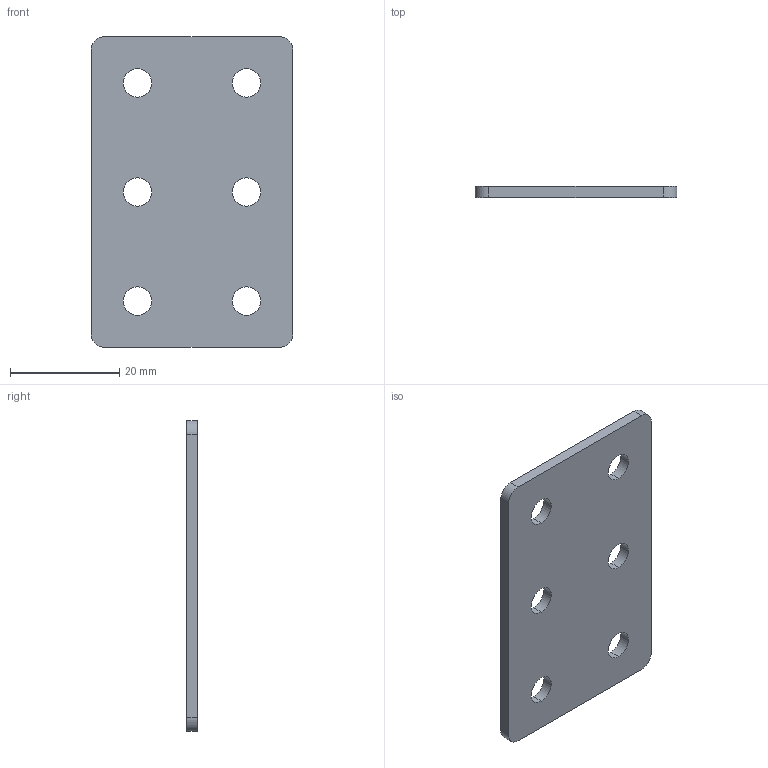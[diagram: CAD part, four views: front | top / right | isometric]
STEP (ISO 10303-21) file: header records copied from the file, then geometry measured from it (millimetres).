
FILE_DESCRIPTION (( 'STEP AP203' ), '1' );
FILE_NAME ('ﾏ-6-20.STEP', '2016-07-23T15:07:42', ( '' ), ( '' ), 'SwSTEP 2.0', 'SolidWorks 2014', '' );
FILE_SCHEMA (( 'CONFIG_CONTROL_DESIGN' ));
Length unit declared in the file: millimetre
Products named in the file (1): ﾏ-6-20
Bounding box: 37 x 2 x 57 mm (x, y, z)
Surface area: 4515.9 mm2 (no closed solid volume)
Topology: 0 solids, 1 shells, 22 faces, 60 edges, 40 vertices
Faces by surface type: cylinder 16, plane 6
Entity records: 817 total; most frequent: DIRECTION 138, CARTESIAN_POINT 123, ORIENTED_EDGE 120, EDGE_CURVE 60, AXIS2_PLACEMENT_3D 55, VERTEX_POINT 40, EDGE_LOOP 34, CIRCLE 32
